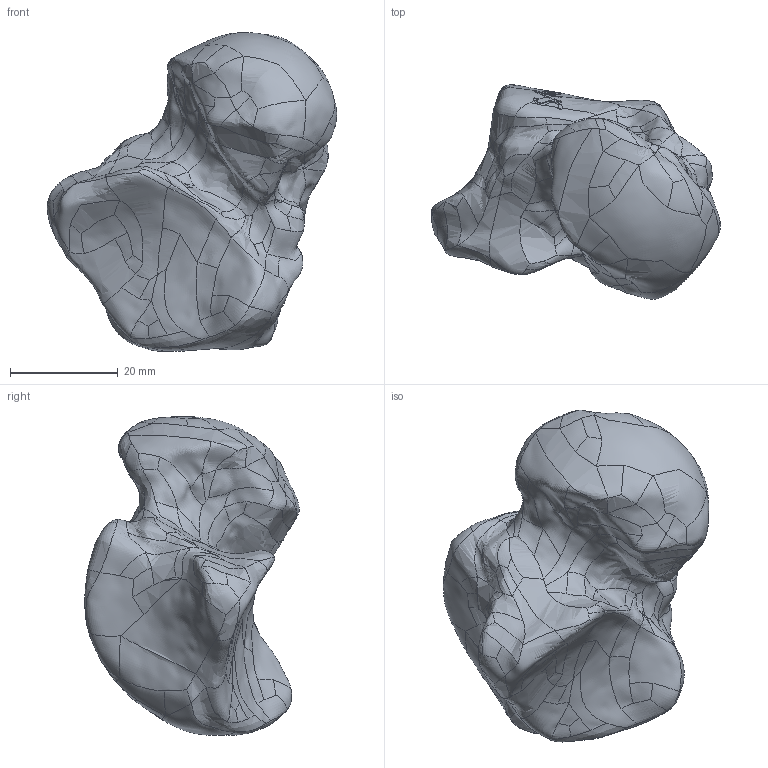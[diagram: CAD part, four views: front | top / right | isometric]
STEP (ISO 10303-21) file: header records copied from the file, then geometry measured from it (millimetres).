
FILE_DESCRIPTION (( 'STEP AP203' ), '1' );
FILE_NAME ('1124-20.STEP', '2025-10-14T19:08:31', ( '' ), ( '' ), 'SwSTEP 2.0', 'SolidWorks 2024', '' );
FILE_SCHEMA (( 'CONFIG_CONTROL_DESIGN' ));
Products named in the file (1): 1124-20
Bounding box: 53.62 x 39.82 x 59.1 mm (x, y, z)
Volume: 43124.2 mm3; surface area: 7974 mm2
Topology: 1 solids, 1 shells, 521 faces, 1348 edges, 832 vertices
Faces by surface type: bspline 520, plane 1
Entity records: 800138 total; most frequent: CARTESIAN_POINT 791737, ORIENTED_EDGE 2696, EDGE_CURVE 1348, B_SPLINE_CURVE_WITH_KNOTS 1348, VERTEX_POINT 832, EDGE_LOOP 524, FACE_OUTER_BOUND 521, ADVANCED_FACE 521
